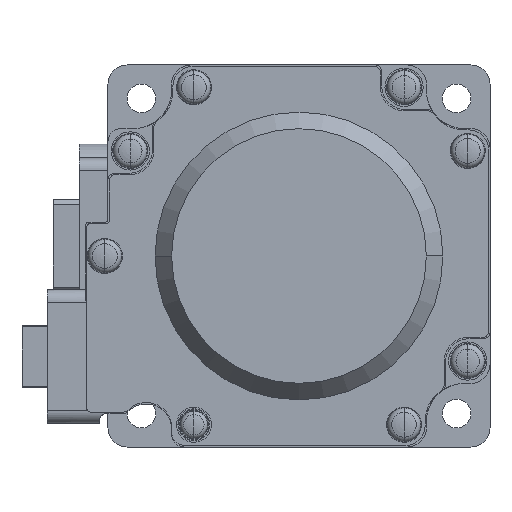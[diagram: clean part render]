
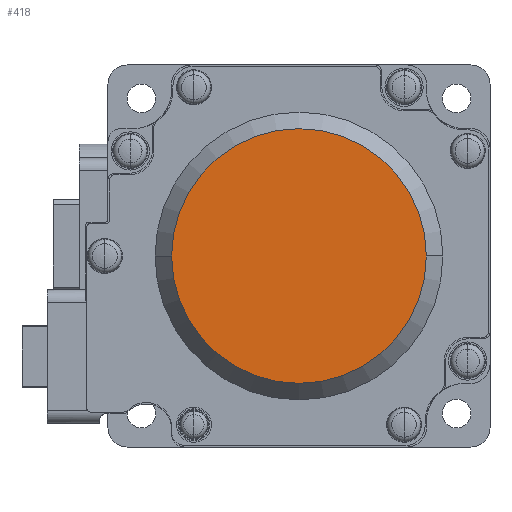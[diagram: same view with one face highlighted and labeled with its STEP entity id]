
A CAD part, left-side view. The second image highlights one B-rep face of the part: STEP entity #418.
In plain terms, the highlighted planar face has unit normal (-1, 0, 0).
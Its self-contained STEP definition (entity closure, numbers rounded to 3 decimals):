
#418 = ADVANCED_FACE( '', ( #1546 ), #1547, .T. );
#1546 = FACE_OUTER_BOUND( '', #3140, .T. );
#1547 = PLANE( '', #3141 );
#3140 = EDGE_LOOP( '', ( #6792, #6793 ) );
#3141 = AXIS2_PLACEMENT_3D( '', #6794, #6795, #6796 );
#6792 = ORIENTED_EDGE( '', *, *, #10375, .T. );
#6793 = ORIENTED_EDGE( '', *, *, #11251, .T. );
#6794 = CARTESIAN_POINT( '', ( -82.5, 10., 0. ) );
#6795 = DIRECTION( '', ( -1., 0., 0. ) );
#6796 = DIRECTION( '', ( 0., 1., 0. ) );
#10375 = EDGE_CURVE( '', #12473, #12477, #12479, .T. );
#11251 = EDGE_CURVE( '', #12477, #12473, #13958, .T. );
#12473 = VERTEX_POINT( '', #15860 );
#12477 = VERTEX_POINT( '', #15865 );
#12479 = CIRCLE( '', #15868, 20. );
#13958 = CIRCLE( '', #17941, 20. );
#15860 = CARTESIAN_POINT( '', ( -82.5, 20., 0. ) );
#15865 = CARTESIAN_POINT( '', ( -82.5, -20., 0. ) );
#15868 = AXIS2_PLACEMENT_3D( '', #20460, #20461, #20462 );
#17941 = AXIS2_PLACEMENT_3D( '', #21976, #21977, #21978 );
#20460 = CARTESIAN_POINT( '', ( -82.5, 0., 0. ) );
#20461 = DIRECTION( '', ( -1., 0., 0. ) );
#20462 = DIRECTION( '', ( 0., 1., 0. ) );
#21976 = CARTESIAN_POINT( '', ( -82.5, 0., 0. ) );
#21977 = DIRECTION( '', ( -1., 0., 0. ) );
#21978 = DIRECTION( '', ( 0., 1., 0. ) );
